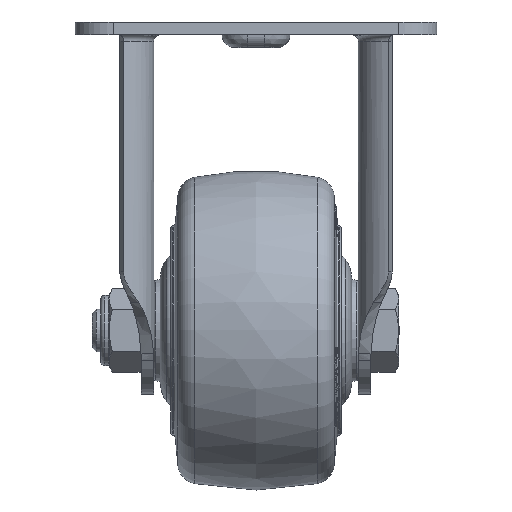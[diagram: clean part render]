
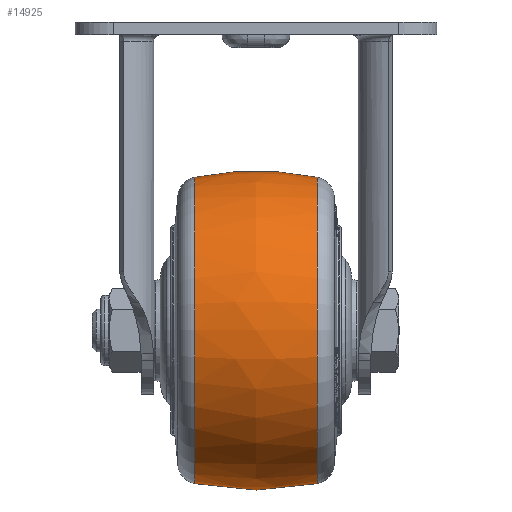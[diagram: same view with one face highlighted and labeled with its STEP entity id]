
A CAD part, left-side view. The second image highlights one B-rep face of the part: STEP entity #14925.
In plain terms, the highlighted free-form (B-spline) face has degree [2, 2] with [3, 9] control points.
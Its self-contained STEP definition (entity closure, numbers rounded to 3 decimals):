
#70=(
BOUNDED_SURFACE()
B_SPLINE_SURFACE(2,2,((#25363,#25364,#25365,#25366,#25367,#25368,#25369,
#25370,#25371),(#25372,#25373,#25374,#25375,#25376,#25377,#25378,#25379,
#25380),(#25381,#25382,#25383,#25384,#25385,#25386,#25387,#25388,#25389)),
 .UNSPECIFIED.,.F.,.T.,.F.)
B_SPLINE_SURFACE_WITH_KNOTS((3,3),(3,2,2,2,3),(-0.208,0.208),
(-3.142,-1.571,0.,1.571,3.142),
 .UNSPECIFIED.)
GEOMETRIC_REPRESENTATION_ITEM()
RATIONAL_B_SPLINE_SURFACE(((1.,0.707,1.,0.707,1.,
0.707,1.,0.707,1.),(0.978,0.692,
0.978,0.692,0.978,0.692,
0.978,0.692,0.978),(1.,0.707,
1.,0.707,1.,0.707,1.,0.707,1.)))
REPRESENTATION_ITEM('')
SURFACE()
);
#4107=FACE_OUTER_BOUND('',#5001,.T.);
#5001=EDGE_LOOP('',(#11722,#11723,#11724,#11725));
#5506=CIRCLE('',#15645,35.992);
#5525=CIRCLE('',#15673,35.992);
#5527=CIRCLE('',#15675,70.);
#6415=VERTEX_POINT('',#25313);
#6430=VERTEX_POINT('',#25360);
#8295=EDGE_CURVE('',#6415,#6415,#5506,.T.);
#8317=EDGE_CURVE('',#6430,#6430,#5525,.T.);
#8319=EDGE_CURVE('',#6415,#6430,#5527,.T.);
#11722=ORIENTED_EDGE('',*,*,#8295,.F.);
#11723=ORIENTED_EDGE('',*,*,#8319,.T.);
#11724=ORIENTED_EDGE('',*,*,#8317,.T.);
#11725=ORIENTED_EDGE('',*,*,#8319,.F.);
#14925=ADVANCED_FACE('',(#4107),#70,.F.);
#15645=AXIS2_PLACEMENT_3D('',#25315,#16986,#16987);
#15673=AXIS2_PLACEMENT_3D('',#25361,#17045,#17046);
#15675=AXIS2_PLACEMENT_3D('',#25390,#17049,#17050);
#16986=DIRECTION('center_axis',(0.,-1.,0.));
#16987=DIRECTION('ref_axis',(0.,0.,
-1.));
#17045=DIRECTION('center_axis',(0.,-1.,0.));
#17046=DIRECTION('ref_axis',(0.,0.,
-1.));
#17049=DIRECTION('center_axis',(-1.,0.,0.));
#17050=DIRECTION('ref_axis',(0.,0.,1.));
#25313=CARTESIAN_POINT('',(0.,-14.451,-36.508));
#25315=CARTESIAN_POINT('Origin',(0.,-14.451,-72.5));
#25360=CARTESIAN_POINT('',(0.,14.451,-36.508));
#25361=CARTESIAN_POINT('Origin',(0.,14.451,
-72.5));
#25363=CARTESIAN_POINT('Ctrl Pts',(0.,14.451,
-36.508));
#25364=CARTESIAN_POINT('Ctrl Pts',(-35.992,14.451,-36.508));
#25365=CARTESIAN_POINT('Ctrl Pts',(-35.992,14.451,-72.5));
#25366=CARTESIAN_POINT('Ctrl Pts',(-35.992,14.451,-108.492));
#25367=CARTESIAN_POINT('Ctrl Pts',(0.,14.451,
-108.492));
#25368=CARTESIAN_POINT('Ctrl Pts',(35.992,14.451,-108.492));
#25369=CARTESIAN_POINT('Ctrl Pts',(35.992,14.451,-72.5));
#25370=CARTESIAN_POINT('Ctrl Pts',(35.992,14.451,-36.508));
#25371=CARTESIAN_POINT('Ctrl Pts',(0.,14.451,
-36.508));
#25372=CARTESIAN_POINT('Ctrl Pts',(0.,0.,
-33.459));
#25373=CARTESIAN_POINT('Ctrl Pts',(-39.041,0.,
-33.459));
#25374=CARTESIAN_POINT('Ctrl Pts',(-39.041,0.,
-72.5));
#25375=CARTESIAN_POINT('Ctrl Pts',(-39.041,0.,
-111.541));
#25376=CARTESIAN_POINT('Ctrl Pts',(0.,0.,
-111.541));
#25377=CARTESIAN_POINT('Ctrl Pts',(39.041,0.,
-111.541));
#25378=CARTESIAN_POINT('Ctrl Pts',(39.041,0.,
-72.5));
#25379=CARTESIAN_POINT('Ctrl Pts',(39.041,0.,
-33.459));
#25380=CARTESIAN_POINT('Ctrl Pts',(0.,0.,
-33.459));
#25381=CARTESIAN_POINT('Ctrl Pts',(0.,-14.451,
-36.508));
#25382=CARTESIAN_POINT('Ctrl Pts',(-35.992,-14.451,
-36.508));
#25383=CARTESIAN_POINT('Ctrl Pts',(-35.992,-14.451,
-72.5));
#25384=CARTESIAN_POINT('Ctrl Pts',(-35.992,-14.451,
-108.492));
#25385=CARTESIAN_POINT('Ctrl Pts',(0.,-14.451,
-108.492));
#25386=CARTESIAN_POINT('Ctrl Pts',(35.992,-14.451,-108.492));
#25387=CARTESIAN_POINT('Ctrl Pts',(35.992,-14.451,-72.5));
#25388=CARTESIAN_POINT('Ctrl Pts',(35.992,-14.451,-36.508));
#25389=CARTESIAN_POINT('Ctrl Pts',(0.,-14.451,
-36.508));
#25390=CARTESIAN_POINT('Origin',(0.,0.,
-105.));
